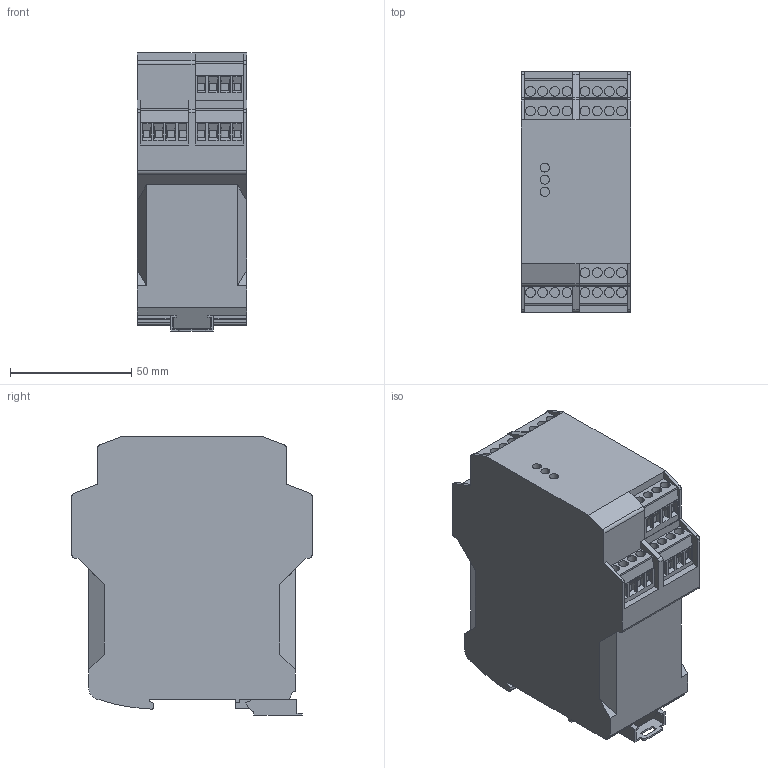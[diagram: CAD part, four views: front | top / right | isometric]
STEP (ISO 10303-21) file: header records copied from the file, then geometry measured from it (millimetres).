
FILE_DESCRIPTION( ( '' ), '1' );
FILE_NAME( '//partserver001.servicenet/client_exchange/iodir/jobs/output/wkb33062848_no0/STEP/118704_2_14b.stp', '2011-04-08T20:20:43', ( '' ), ( '' ), ' ', ' ', ' ' );
FILE_SCHEMA( ( 'automotive_design' ) );
Length unit declared in the file: millimetre
Products named in the file (1): 1
Bounding box: 45 x 99 x 114.5 mm (x, y, z)
Volume: 417481.5 mm3; surface area: 40879.8 mm2
Topology: 1 solids, 1 shells, 547 faces, 1410 edges, 922 vertices
Faces by surface type: plane 467, cylinder 80
Entity records: 32440 total; most frequent: STYLED_ITEM 2880, PRESENTATION_STYLE_ASSIGNMENT 2880, CARTESIAN_POINT 2880, COLOUR_RGB 2880, ORIENTED_EDGE 2820, DIRECTION 2666, EDGE_CURVE 1410, CURVE_STYLE 1410
